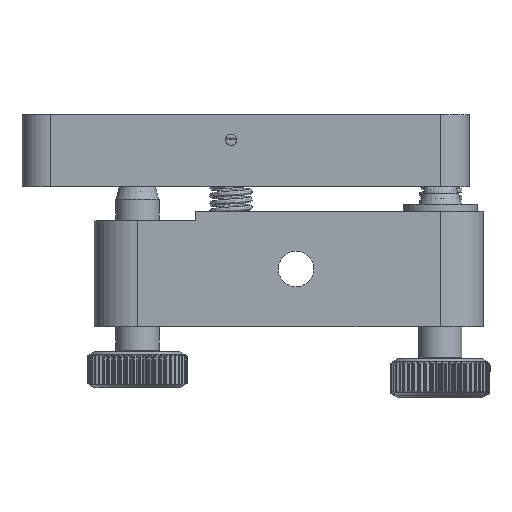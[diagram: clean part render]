
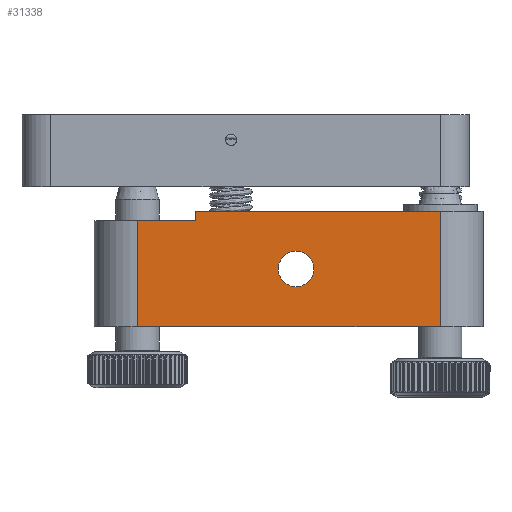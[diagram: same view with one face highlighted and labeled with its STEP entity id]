
A CAD part, left-side view. The second image highlights one B-rep face of the part: STEP entity #31338.
In plain terms, the highlighted planar face has unit normal (-1, 0, 0).
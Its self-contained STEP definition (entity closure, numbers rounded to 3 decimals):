
#2996=LINE($,#52923,#5055);
#3005=LINE($,#52949,#5064);
#3022=LINE($,#53035,#5081);
#3048=LINE($,#53254,#5107);
#3049=LINE($,#53255,#5108);
#3050=LINE($,#53256,#5109);
#5055=VECTOR($,#37211,14.7);
#5064=VECTOR($,#37230,16.);
#5081=VECTOR($,#37313,42.);
#5107=VECTOR($,#37413,1.3);
#5108=VECTOR($,#37414,8.);
#5109=VECTOR($,#37415,34.);
#8178=FACE_OUTER_BOUND($,#10498,.T.);
#9344=FACE_BOUND($,#10499,.T.);
#10498=EDGE_LOOP($,(#24741,#24742,#24743,#24744,#24745,#24746));
#10499=EDGE_LOOP($,(#24747));
#11787=CIRCLE($,#33195,2.459);
#13605=VERTEX_POINT($,#52916);
#13608=VERTEX_POINT($,#52921);
#13617=VERTEX_POINT($,#52942);
#13620=VERTEX_POINT($,#52947);
#13621=VERTEX_POINT($,#52951);
#13678=VERTEX_POINT($,#53252);
#13679=VERTEX_POINT($,#53253);
#17559=EDGE_CURVE($,#13608,#13605,#2996,.T.);
#17571=EDGE_CURVE($,#13620,#13617,#3005,.T.);
#17572=EDGE_CURVE($,#13621,#13621,#11787,.T.);
#17614=EDGE_CURVE($,#13608,#13617,#3022,.T.);
#17658=EDGE_CURVE($,#13678,#13679,#3048,.T.);
#17659=EDGE_CURVE($,#13679,#13605,#3049,.T.);
#17660=EDGE_CURVE($,#13620,#13678,#3050,.T.);
#24741=ORIENTED_EDGE($,*,*,#17658,.T.);
#24742=ORIENTED_EDGE($,*,*,#17659,.T.);
#24743=ORIENTED_EDGE($,*,*,#17559,.F.);
#24744=ORIENTED_EDGE($,*,*,#17614,.T.);
#24745=ORIENTED_EDGE($,*,*,#17571,.F.);
#24746=ORIENTED_EDGE($,*,*,#17660,.T.);
#24747=ORIENTED_EDGE($,*,*,#17572,.T.);
#30118=PLANE($,#33263);
#31338=ADVANCED_FACE($,(#8178,#9344),#30118,.T.);
#33195=AXIS2_PLACEMENT_3D($,#52952,#37233,#37234);
#33263=AXIS2_PLACEMENT_3D($,#53251,#37411,#37412);
#37211=DIRECTION($,(0.,0.,1.));
#37230=DIRECTION($,(0.,0.,-1.));
#37233=DIRECTION('center_axis',(1.,0.,0.));
#37234=DIRECTION('ref_axis',(0.,1.,0.));
#37313=DIRECTION($,(0.,-1.,0.));
#37411=DIRECTION('center_axis',(-1.,0.,0.));
#37412=DIRECTION('ref_axis',(0.,0.,
1.));
#37413=DIRECTION($,(0.,0.,-1.));
#37414=DIRECTION($,(0.,1.,0.));
#37415=DIRECTION($,(0.,1.,0.));
#52916=CARTESIAN_POINT('',(-1.074,47.962,13.687));
#52921=CARTESIAN_POINT('',(-1.074,47.962,-1.013));
#52923=CARTESIAN_POINT($,(-1.074,47.962,14.987));
#52942=CARTESIAN_POINT('',(-1.074,5.962,-1.013));
#52947=CARTESIAN_POINT('',(-1.074,5.962,14.987));
#52949=CARTESIAN_POINT($,(-1.074,5.962,14.987));
#52951=CARTESIAN_POINT('',(-1.074,23.504,6.987));
#52952=CARTESIAN_POINT('Origin',(-1.074,25.962,6.987));
#53035=CARTESIAN_POINT($,(-1.074,-0.038,-1.013));
#53251=CARTESIAN_POINT('Origin',(-1.074,11.962,14.987));
#53252=CARTESIAN_POINT('',(-1.074,39.962,14.987));
#53253=CARTESIAN_POINT('',(-1.074,39.962,13.687));
#53254=CARTESIAN_POINT($,(-1.074,39.962,14.337));
#53255=CARTESIAN_POINT($,(-1.074,36.012,13.687));
#53256=CARTESIAN_POINT($,(-1.074,-0.038,14.987));
